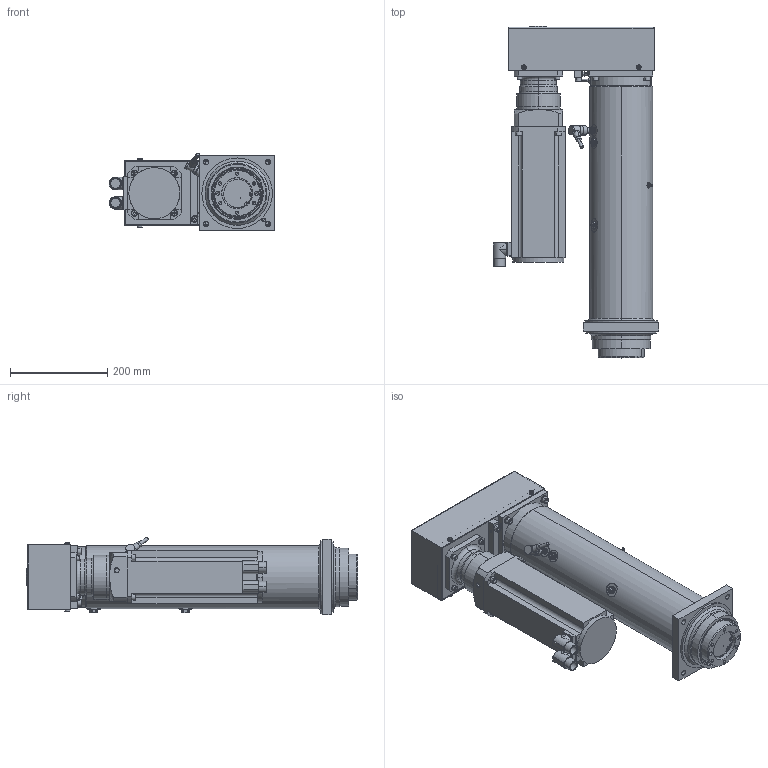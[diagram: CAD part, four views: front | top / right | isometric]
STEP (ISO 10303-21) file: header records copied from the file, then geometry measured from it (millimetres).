
FILE_DESCRIPTION (( 'STEP AP214' ), '1' );
FILE_NAME ('374131.STEP', '2017-10-10T05:32:11', ( 'admin' ), ( 'Microsoft' ), 'SwSTEP 2.0', 'SolidWorks 2016', '' );
FILE_SCHEMA (( 'AUTOMOTIVE_DESIGN' ));
Length unit declared in the file: millimetre
Products named in the file (1): 374131
Bounding box: 340.47 x 682 x 159.93 mm (x, y, z)
Volume: 9653351.2 mm3; surface area: 1371820.9 mm2
Topology: 52 solids, 52 shells, 1661 faces, 3882 edges, 2357 vertices
Faces by surface type: plane 679, cylinder 648, cone 276, torus 52, bspline 6
Entity records: 70929 total; most frequent: CARTESIAN_POINT 13874, DIRECTION 8397, ORIENTED_EDGE 7484, EDGE_CURVE 3742, AXIS2_PLACEMENT_3D 3258, VERTEX_POINT 2355, EDGE_LOOP 2009, VECTOR 1881
